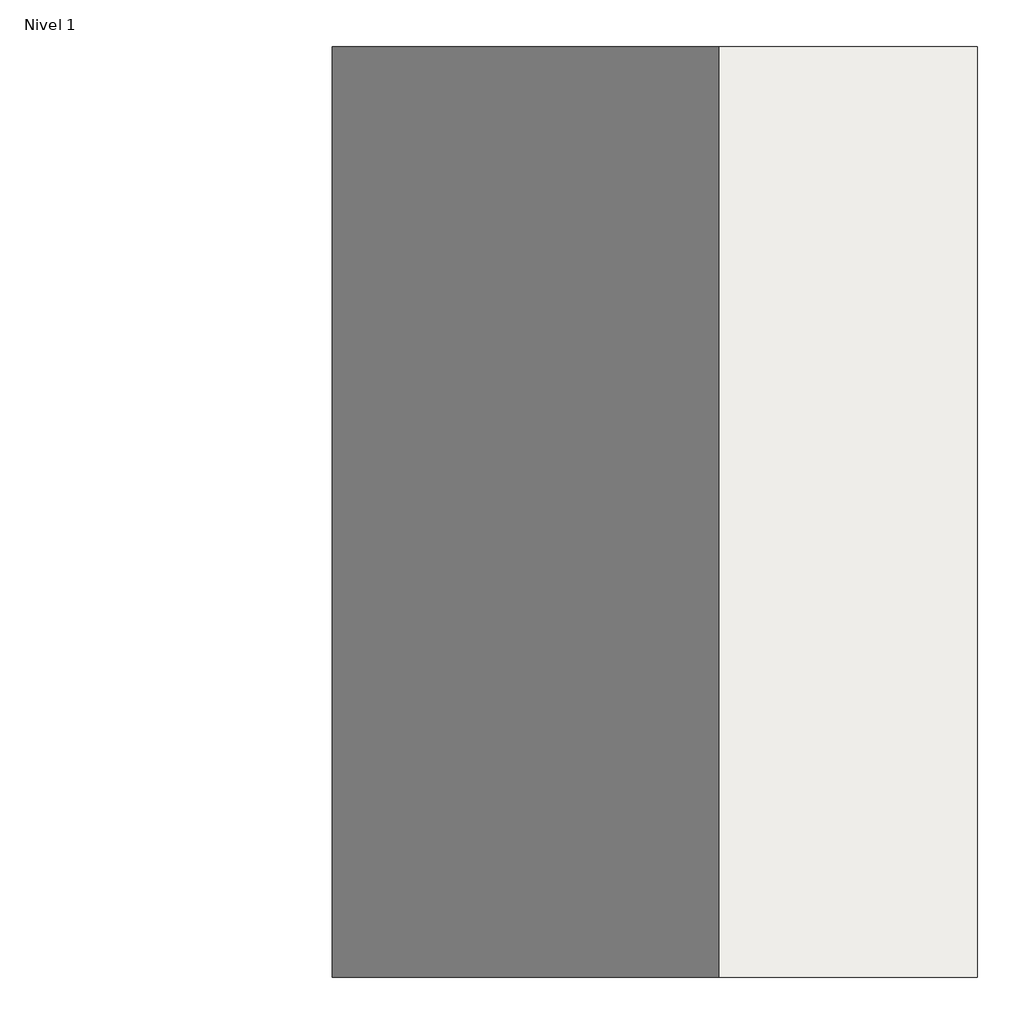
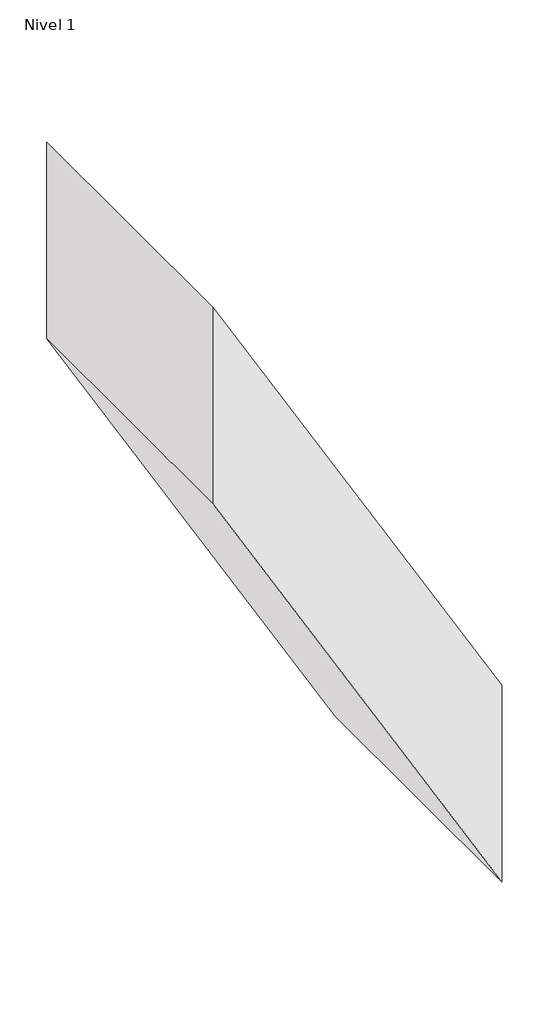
# One storey: 1 roof.
"""IFC4 building model written with IfcOpenShell, lengths in millimetres."""

from ifc_helpers import new_model, si_unit, frame, origin, place, context, project, spatial, polyline, outline, extrude, element, save

model = new_model("IFC4")

# Units and contexts
model_context = context("Model", 3, world=origin())
ifc_project = project(units=[si_unit("LENGTHUNIT", "METRE", prefix="MILLI")], contexts=[model_context])

# Site, building, storey
site = spatial("IfcSite", under=ifc_project)
building = spatial("IfcBuilding", under=site)
storey = spatial("IfcBuildingStorey", under=building, Name="Nivel 1", Elevation=0.0)

# Roof
placement = place(None, origin())
element("IfcRoof", 1, ObjectType="Aislamiento poliuretano proyectado", at=placement, inside=storey, context=model_context, shape_type="SweptSolid", body=[
    extrude(outline(polyline([(720.0, -3013.2553136), (2452.0508076, -4013.2553136), (1732.0508076, -4013.2553136), (0.0, -3013.2553136), (720.0, -3013.2553136)])), frame((0.0, 3631.8256744, 0.0), z_axis=(0.0, 1.0, 0.0), x_axis=(0.0, 0.0, 1.0)), (0.0, 0.0, 1.0), 1000.0),
])

save(model, "model.ifc")
